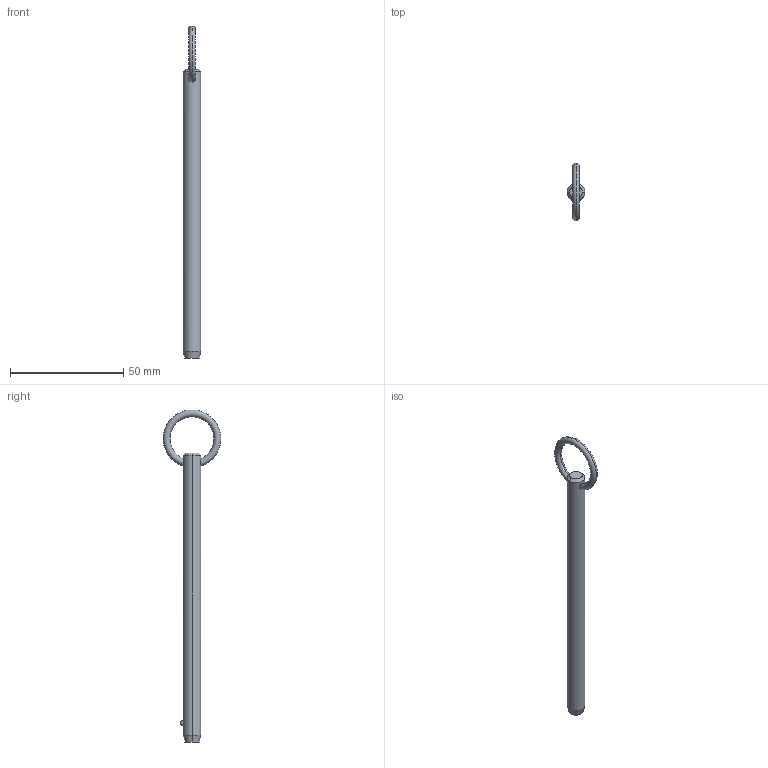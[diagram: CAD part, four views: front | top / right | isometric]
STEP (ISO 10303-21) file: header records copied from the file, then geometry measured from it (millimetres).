
FILE_DESCRIPTION (( 'STEP AP203' ), '1' );
FILE_NAME ('P1250.031-440.step', '2019-07-29T19:56:17', ( '' ), ( '' ), 'SwSTEP 2.0', 'SolidWorks 2017', '' );
FILE_SCHEMA (( 'CONFIG_CONTROL_DESIGN' ));
Length unit declared in the file: millimetre
Products named in the file (1): P1250.031-440
Bounding box: 7.93 x 25.36 x 146.71 mm (x, y, z)
Volume: 6706.1 mm3; surface area: 3816 mm2
Topology: 1 solids, 1 shells, 12 faces, 28 edges, 17 vertices
Faces by surface type: cone 4, torus 2, sphere 2, cylinder 2, plane 2
Entity records: 509 total; most frequent: CARTESIAN_POINT 176, DIRECTION 56, ORIENTED_EDGE 48, AXIS2_PLACEMENT_3D 25, EDGE_CURVE 24, VERTEX_POINT 15, EDGE_LOOP 15, FACE_OUTER_BOUND 12
